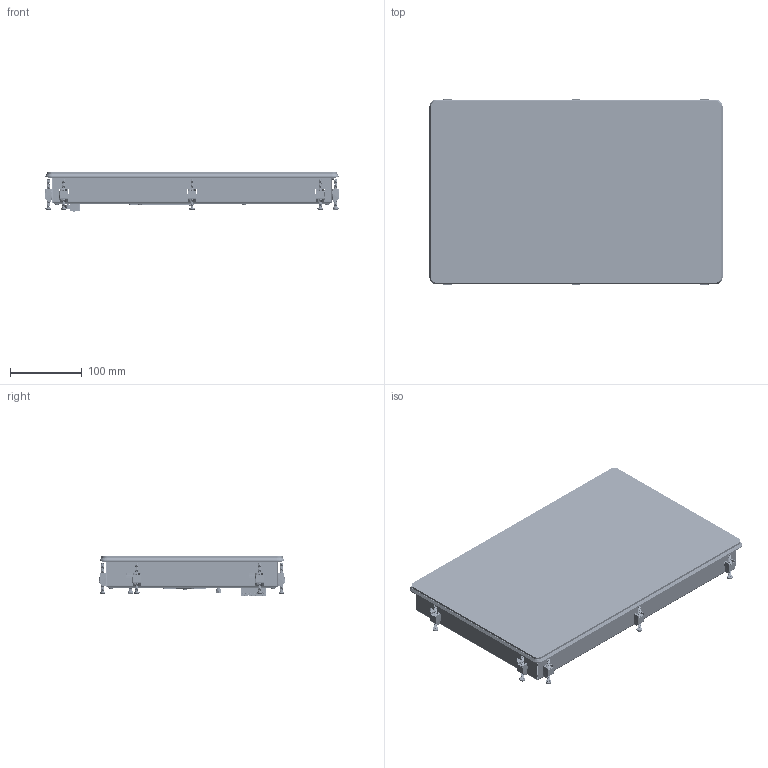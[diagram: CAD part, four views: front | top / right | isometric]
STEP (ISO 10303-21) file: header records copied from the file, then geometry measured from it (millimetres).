
FILE_DESCRIPTION(/* description */ (''),/* implementation_level */ '2;1');
FILE_NAME(/* name */ 'WP830-HD_cap.stp',/* time_stamp */ '2026-06-16T15:16:10+02:00',/* author */ ('ut3'),/* organization */ (''),/* preprocessor_version */ 'ST-DEVELOPER v20.1',/* originating_system */ 'Autodesk Inventor 2026',/* authorisation */ '');
FILE_SCHEMA (('AUTOMOTIVE_DESIGN { 1 0 10303 214 3 1 1 }'));
Products named in the file (35): WP830-HD; 0910.00.090; 0910.00.084_Lens_OD; 0910.00.084_Lens_VA; LCD_15.6_HD; CTP_Biadesivo; Flat_cap_15; CapacitivoUSB; 1300.20.600_V2; 1300.20.600_V1; 3801603; 1300.20.578_v1_Guarnizione; 1600.00.020; 1600.00.070; 1600.00.240; 1300_20_529_v5; 1300_20_529_v5_1; M4_FTTC_C-128; M3_FTR-67; DiscoMasc-10; 1900.10.324_V3; 1300.20.369A_V3; 1300_20_369A_v3; DiscoMasc-10_1; 1600_00_165; 1600_00_166; 1600_00_167; ISO 7045 - M3 x 5 - 4.8 - H; ISO 7045 - M3 x 10 - 4.8 - Z; 0400.60.078_1910403_04_FKC-2-5-7-ST_3D; fkc_2.5-7-st; BLOCCHETTO_FISSAGGIO_ASM; 1300_20_304_REV2; DADO_M4; VITE_M4X40
Assembly tree (73 placements, depth 3):
  WP830-HD
    1600.00.020  x2
    0910.00.090
      0910.00.084_Lens_OD
      0910.00.084_Lens_VA
      LCD_15.6_HD
      CTP_Biadesivo
      Flat_cap_15
      CapacitivoUSB
    1300.20.600_V2
      1300.20.600_V1
      3801603  x16
      1300.20.578_v1_Guarnizione
    ISO 7045 - M3 x 5 - 4.8 - H  x11
    1600.00.070  x2
    1600.00.240  x2
    1300_20_529_v5
      1300_20_529_v5_1
      DiscoMasc-10  x3
      M4_FTTC_C-128
      M3_FTR-67
    1900.10.324_V3
    1300.20.369A_V3
      1300_20_369A_v3
      DiscoMasc-10_1
    1600_00_165
    1600_00_166
    1600_00_167
    ISO 7045 - M3 x 10 - 4.8 - Z
    0400.60.078_1910403_04_FKC-2-5-7-ST_3D
      fkc_2.5-7-st
    BLOCCHETTO_FISSAGGIO_ASM  x10
      1300_20_304_REV2
      DADO_M4
      VITE_M4X40
Bounding box: 409 x 258 x 57.05 mm (x, y, z)
Volume: 640764.4 mm3; surface area: 975805.2 mm2
Topology: 85 solids, 94 shells, 5490 faces, 15030 edges, 9797 vertices
Faces by surface type: cylinder 2193, plane 1687, bspline 968, cone 303, sphere 202, torus 137
Full cylindrical faces by diameter (mm): 0.457 x1, 1.4 x7, 2.459 x11, 2.5 x8, 2.7 x16, 2.729 x12, 2.8 x6, 3 x72, 3.2 x2, 3.242 x1, 3.4 x1, 3.5 x23, 3.65 x16, 4 x814, 4.134 x3, 4.5 x2, 4.9 x2, 5 x2, 5.5 x1, 5.9 x1, 6 x1, 7 x2, 8 x2, 9 x1, 10 x4
Entity records: 108405 total; most frequent: CARTESIAN_POINT 63665, ORIENTED_EDGE 9176, DIRECTION 8402, EDGE_CURVE 4596, VERTEX_POINT 3060, AXIS2_PLACEMENT_3D 2855, LINE 2692, VECTOR 2692
